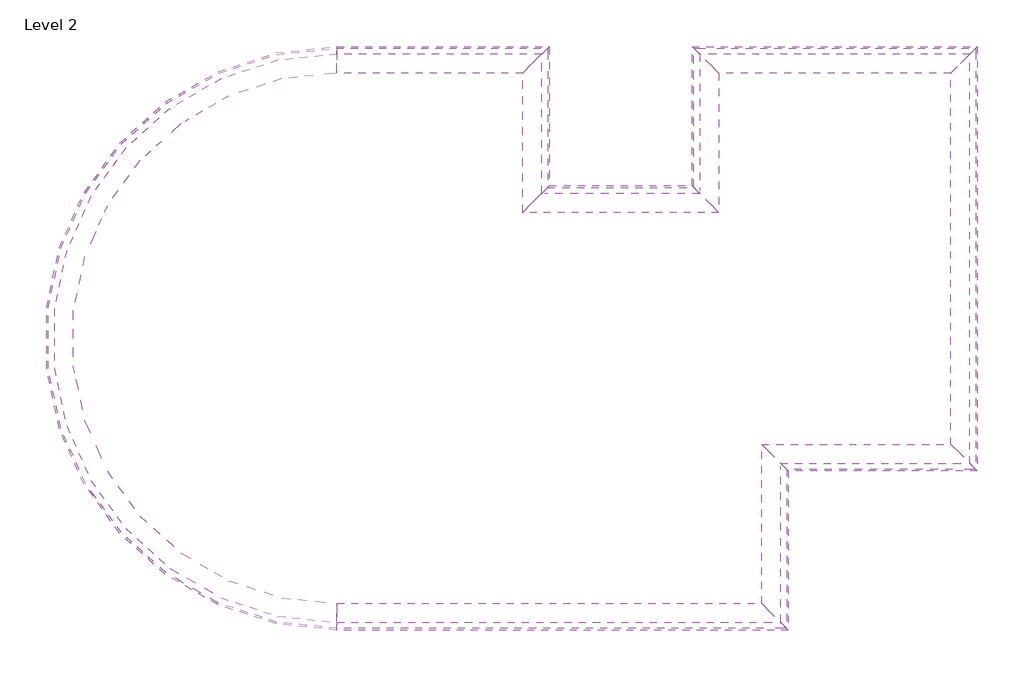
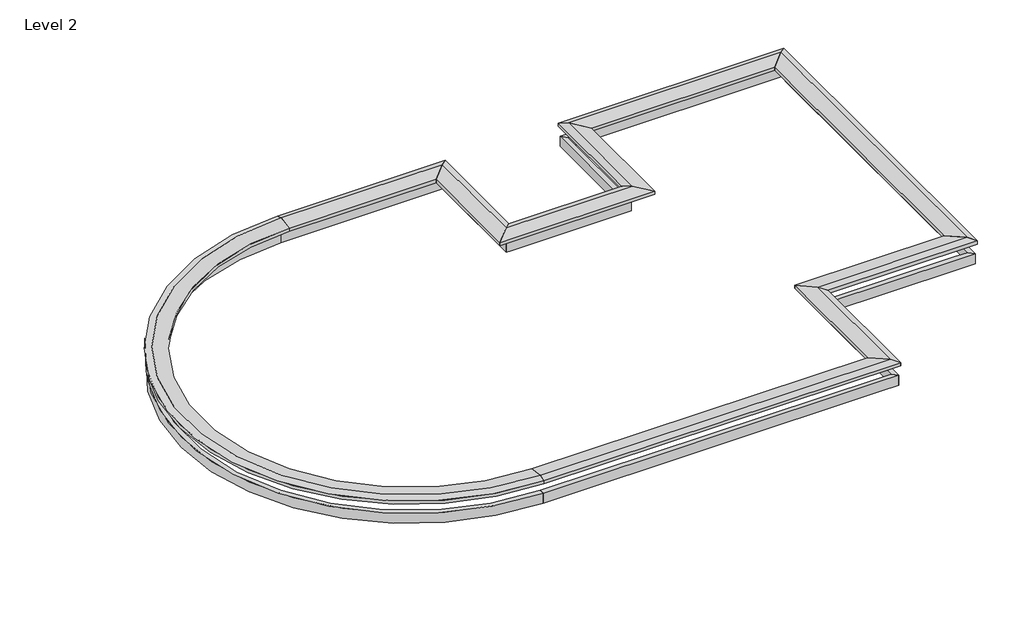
# One storey: 20 proxies.
"""IFC4 building model written with IfcOpenShell, lengths in millimetres."""

from ifc_helpers import new_model, si_unit, point, frame, frame_2d, origin, place, context, project, spatial, polyline, circle_curve, trimmed, segment, composite_curve, outline, extrude, faceted_brep, element, save
from ifc_brep_helpers import plane_surface, cylinder_surface, revolved_surface, advanced_brep

model = new_model("IFC4")

# Units and contexts
model_context = context("Model", 3, world=origin())
ifc_project = project(units=[si_unit("LENGTHUNIT", "METRE", prefix="MILLI")], contexts=[model_context])

# Site, building, storey
site = spatial("IfcSite", under=ifc_project)
building = spatial("IfcBuilding", under=site)
storey = spatial("IfcBuildingStorey", under=building, Name="Level 2", Elevation=3048.0)

# Proxies
placement = place(None, origin())
element("IfcBuildingElementProxy", 1, Name="Wall Sweeps", at=placement, inside=storey, context=model_context, shape_type="SweptSolid", body=[
    extrude(outline(polyline([(-15653.4094576, 12053.1951144), (-15653.4094576, 12145.2701144), (-12429.1969576, 12145.2701144), (-12521.2719576, 12053.1951144), (-15653.4094576, 12053.1951144)])), frame((0.0, 0.0, 5689.6), z_axis=(0.0, 0.0, 1.0), x_axis=(1.0, 0.0, 0.0)), (0.0, 0.0, 1.0), 203.2),
])
element("IfcBuildingElementProxy", 2, Name="Wall Sweeps", at=placement, inside=storey, context=model_context, shape_type="Brep", body=[
    faceted_brep([(-15653.4094576, 11764.2701144, 6159.5), (-15653.4094576, 12043.6701144, 6197.6), (-15653.4094576, 12170.6701144, 6159.5), (-15653.4094576, 12170.6701144, 6096.0), (-15653.4094576, 12145.2701144, 6096.0), (-15653.4094576, 11792.8451144, 6096.0), (-15653.4094576, 11764.2701144, 6096.0), (-12810.1969576, 11764.2701144, 6159.5), (-12810.1969576, 11764.2701144, 6096.0), (-12403.7969576, 12170.6701144, 6096.0), (-12403.7969576, 12170.6701144, 6159.5), (-12530.7969576, 12043.6701144, 6197.6)], [[[0, 1, 2, 3, 4, 5, 6]], [[7, 8, 9, 10, 11]], [[1, 0, 7, 11]], [[2, 1, 11, 10]], [[3, 2, 10, 9]], [[6, 5, 4, 3, 9, 8]], [[0, 6, 8, 7]]]),
])
element("IfcBuildingElementProxy", 3, Name="Wall Sweeps", at=placement, inside=storey, context=model_context, shape_type="Brep", body=[
    faceted_brep([(-12429.1969576, 12145.2701144, 5892.8), (-12429.1969576, 12145.2701144, 5689.6), (-12521.2719576, 12053.1951144, 5689.6), (-12521.2719576, 12053.1951144, 5892.8), (-12429.1969576, 10011.6701144, 5892.8), (-12521.2719576, 9919.5951144, 5892.8), (-12521.2719576, 9919.5951144, 5689.6), (-12429.1969576, 10011.6701144, 5689.6), (-12429.1969576, 11792.8451144, 5892.8), (-12429.1969576, 11792.8451144, 5689.6), (-12521.2719576, 11792.8451144, 5689.6), (-12521.2719576, 11792.8451144, 5892.8)], [[[0, 1, 2, 3]], [[4, 5, 6, 7]], [[1, 0, 8, 4, 7, 9]], [[2, 1, 9, 7, 6, 10]], [[3, 2, 10, 6, 5, 11]], [[0, 3, 11, 5, 4, 8]]]),
])
element("IfcBuildingElementProxy", 4, Name="Wall Sweeps", at=placement, inside=storey, context=model_context, shape_type="Brep", body=[
    faceted_brep([(-12810.1969576, 11764.2701144, 6159.5), (-12530.7969576, 12043.6701144, 6197.6), (-12403.7969576, 12170.6701144, 6159.5), (-12403.7969576, 12170.6701144, 6096.0), (-12810.1969576, 11764.2701144, 6096.0), (-12810.1969576, 9630.6701144, 6159.5), (-12810.1969576, 9630.6701144, 6096.0), (-12403.7969576, 10037.0701144, 6096.0), (-12403.7969576, 10037.0701144, 6159.5), (-12530.7969576, 9910.0701144, 6197.6)], [[[0, 1, 2, 3, 4]], [[5, 6, 7, 8, 9]], [[1, 0, 5, 9]], [[2, 1, 9, 8]], [[3, 2, 8, 7]], [[4, 3, 7, 6]], [[0, 4, 6, 5]]]),
])
element("IfcBuildingElementProxy", 5, Name="Wall Sweeps", at=placement, inside=storey, context=model_context, shape_type="Brep", body=[
    faceted_brep([(-12429.1969576, 10011.6701144, 5892.8), (-12429.1969576, 10011.6701144, 5689.6), (-12521.2719576, 9919.5951144, 5689.6), (-12521.2719576, 9919.5951144, 5892.8), (-10190.8219576, 10011.6701144, 5892.8), (-10098.7469576, 9919.5951144, 5892.8), (-10098.7469576, 9919.5951144, 5689.6), (-10190.8219576, 10011.6701144, 5689.6), (-12429.1969576, 9919.5951144, 5689.6), (-12429.1969576, 9919.5951144, 5892.8)], [[[0, 1, 2, 3]], [[4, 5, 6, 7]], [[1, 0, 4, 7]], [[2, 1, 7, 6, 8]], [[3, 2, 8, 6, 5, 9]], [[0, 3, 9, 5, 4]]]),
])
element("IfcBuildingElementProxy", 6, Name="Wall Sweeps", at=placement, inside=storey, context=model_context, shape_type="Brep", body=[
    faceted_brep([(-12810.1969576, 9630.6701144, 6159.5), (-12530.7969576, 9910.0701144, 6197.6), (-12403.7969576, 10037.0701144, 6159.5), (-12403.7969576, 10037.0701144, 6096.0), (-12810.1969576, 9630.6701144, 6096.0), (-9809.8219576, 9630.6701144, 6159.5), (-9809.8219576, 9630.6701144, 6096.0), (-10216.2219576, 10037.0701144, 6096.0), (-10216.2219576, 10037.0701144, 6159.5), (-10089.2219576, 9910.0701144, 6197.6)], [[[0, 1, 2, 3, 4]], [[5, 6, 7, 8, 9]], [[1, 0, 5, 9]], [[2, 1, 9, 8]], [[3, 2, 8, 7]], [[4, 3, 7, 6]], [[0, 4, 6, 5]]]),
])
element("IfcBuildingElementProxy", 7, Name="Wall Sweeps", at=placement, inside=storey, context=model_context, shape_type="Brep", body=[
    faceted_brep([(-10190.8219576, 10011.6701144, 5892.8), (-10190.8219576, 10011.6701144, 5689.6), (-10098.7469576, 9919.5951144, 5689.6), (-10098.7469576, 9919.5951144, 5892.8), (-10190.8219576, 12145.2701144, 5892.8), (-10098.7469576, 12053.1951144, 5892.8), (-10098.7469576, 12053.1951144, 5689.6), (-10190.8219576, 12145.2701144, 5689.6), (-10098.7469576, 10011.6701144, 5689.6), (-10098.7469576, 10011.6701144, 5892.8)], [[[0, 1, 2, 3]], [[4, 5, 6, 7]], [[1, 0, 4, 7]], [[2, 1, 7, 6, 8]], [[3, 2, 8, 6, 5, 9]], [[0, 3, 9, 5, 4]]]),
])
element("IfcBuildingElementProxy", 8, Name="Wall Sweeps", at=placement, inside=storey, context=model_context, shape_type="Brep", body=[
    faceted_brep([(-9809.8219576, 9630.6701144, 6159.5), (-10089.2219576, 9910.0701144, 6197.6), (-10216.2219576, 10037.0701144, 6159.5), (-10216.2219576, 10037.0701144, 6096.0), (-9809.8219576, 9630.6701144, 6096.0), (-9809.8219576, 11764.2701144, 6159.5), (-9809.8219576, 11764.2701144, 6096.0), (-10216.2219576, 12170.6701144, 6096.0), (-10216.2219576, 12170.6701144, 6159.5), (-10089.2219576, 12043.6701144, 6197.6)], [[[0, 1, 2, 3, 4]], [[5, 6, 7, 8, 9]], [[1, 0, 5, 9]], [[2, 1, 9, 8]], [[3, 2, 8, 7]], [[4, 3, 7, 6]], [[0, 4, 6, 5]]]),
])
element("IfcBuildingElementProxy", 9, Name="Wall Sweeps", at=placement, inside=storey, context=model_context, shape_type="Brep", body=[
    faceted_brep([(-10190.8219576, 12145.2701144, 5892.8), (-10190.8219576, 12145.2701144, 5689.6), (-10098.7469576, 12053.1951144, 5689.6), (-10098.7469576, 12053.1951144, 5892.8), (-5875.9969576, 12145.2701144, 5892.8), (-5968.0719576, 12053.1951144, 5892.8), (-5968.0719576, 12053.1951144, 5689.6), (-5875.9969576, 12145.2701144, 5689.6), (-9838.3969576, 12145.2701144, 5892.8), (-9838.3969576, 12145.2701144, 5689.6), (-9838.3969576, 12053.1951144, 5689.6), (-9838.3969576, 12053.1951144, 5892.8)], [[[0, 1, 2, 3]], [[4, 5, 6, 7]], [[1, 0, 8, 4, 7, 9]], [[2, 1, 9, 7, 6, 10]], [[3, 2, 10, 6, 5, 11]], [[0, 3, 11, 5, 4, 8]]]),
])
element("IfcBuildingElementProxy", 10, Name="Wall Sweeps", at=placement, inside=storey, context=model_context, shape_type="Brep", body=[
    faceted_brep([(-9809.8219576, 11764.2701144, 6159.5), (-10089.2219576, 12043.6701144, 6197.6), (-10216.2219576, 12170.6701144, 6159.5), (-10216.2219576, 12170.6701144, 6096.0), (-9809.8219576, 11764.2701144, 6096.0), (-6256.9969576, 11764.2701144, 6159.5), (-6256.9969576, 11764.2701144, 6096.0), (-5850.5969576, 12170.6701144, 6096.0), (-5850.5969576, 12170.6701144, 6159.5), (-5977.5969576, 12043.6701144, 6197.6)], [[[0, 1, 2, 3, 4]], [[5, 6, 7, 8, 9]], [[1, 0, 5, 9]], [[2, 1, 9, 8]], [[3, 2, 8, 7]], [[4, 3, 7, 6]], [[0, 4, 6, 5]]]),
])
element("IfcBuildingElementProxy", 11, Name="Wall Sweeps", at=placement, inside=storey, context=model_context, shape_type="Brep", body=[
    faceted_brep([(-5875.9969576, 12145.2701144, 5892.8), (-5875.9969576, 12145.2701144, 5689.6), (-5968.0719576, 12053.1951144, 5689.6), (-5968.0719576, 12053.1951144, 5892.8), (-5875.9969576, 5696.8451144, 5892.8), (-5968.0719576, 5788.9201144, 5892.8), (-5968.0719576, 5788.9201144, 5689.6), (-5875.9969576, 5696.8451144, 5689.6), (-5875.9969576, 11792.8451144, 5892.8), (-5875.9969576, 11792.8451144, 5689.6), (-5968.0719576, 11792.8451144, 5689.6), (-5968.0719576, 11792.8451144, 5892.8)], [[[0, 1, 2, 3]], [[4, 5, 6, 7]], [[1, 0, 8, 4, 7, 9]], [[2, 1, 9, 7, 6, 10]], [[3, 2, 10, 6, 5, 11]], [[0, 3, 11, 5, 4, 8]]]),
])
element("IfcBuildingElementProxy", 12, Name="Wall Sweeps", at=placement, inside=storey, context=model_context, shape_type="Brep", body=[
    faceted_brep([(-6256.9969576, 11764.2701144, 6159.5), (-5977.5969576, 12043.6701144, 6197.6), (-5850.5969576, 12170.6701144, 6159.5), (-5850.5969576, 12170.6701144, 6096.0), (-6256.9969576, 11764.2701144, 6096.0), (-6256.9969576, 6077.8451144, 6159.5), (-6256.9969576, 6077.8451144, 6096.0), (-5850.5969576, 5671.4451144, 6096.0), (-5850.5969576, 5671.4451144, 6159.5), (-5977.5969576, 5798.4451144, 6197.6)], [[[0, 1, 2, 3, 4]], [[5, 6, 7, 8, 9]], [[1, 0, 5, 9]], [[2, 1, 9, 8]], [[3, 2, 8, 7]], [[4, 3, 7, 6]], [[0, 4, 6, 5]]]),
])
element("IfcBuildingElementProxy", 13, Name="Wall Sweeps", at=placement, inside=storey, context=model_context, shape_type="Brep", body=[
    faceted_brep([(-5875.9969576, 5696.8451144, 5892.8), (-5875.9969576, 5696.8451144, 5689.6), (-5968.0719576, 5788.9201144, 5689.6), (-5968.0719576, 5788.9201144, 5892.8), (-8771.5969576, 5696.8451144, 5892.8), (-8863.6719576, 5788.9201144, 5892.8), (-8863.6719576, 5788.9201144, 5689.6), (-8771.5969576, 5696.8451144, 5689.6), (-6228.4219576, 5696.8451144, 5892.8), (-6228.4219576, 5696.8451144, 5689.6), (-6228.4219576, 5788.9201144, 5689.6), (-6228.4219576, 5788.9201144, 5892.8)], [[[0, 1, 2, 3]], [[4, 5, 6, 7]], [[1, 0, 8, 4, 7, 9]], [[2, 1, 9, 7, 6, 10]], [[3, 2, 10, 6, 5, 11]], [[0, 3, 11, 5, 4, 8]]]),
])
element("IfcBuildingElementProxy", 14, Name="Wall Sweeps", at=placement, inside=storey, context=model_context, shape_type="Brep", body=[
    faceted_brep([(-6256.9969576, 6077.8451144, 6159.5), (-5977.5969576, 5798.4451144, 6197.6), (-5850.5969576, 5671.4451144, 6159.5), (-5850.5969576, 5671.4451144, 6096.0), (-6256.9969576, 6077.8451144, 6096.0), (-9152.5969576, 6077.8451144, 6159.5), (-9152.5969576, 6077.8451144, 6096.0), (-8746.1969576, 5671.4451144, 6096.0), (-8746.1969576, 5671.4451144, 6159.5), (-8873.1969576, 5798.4451144, 6197.6)], [[[0, 1, 2, 3, 4]], [[5, 6, 7, 8, 9]], [[1, 0, 5, 9]], [[2, 1, 9, 8]], [[3, 2, 8, 7]], [[4, 3, 7, 6]], [[0, 4, 6, 5]]]),
])
element("IfcBuildingElementProxy", 15, Name="Wall Sweeps", at=placement, inside=storey, context=model_context, shape_type="Brep", body=[
    faceted_brep([(-8771.5969576, 5696.8451144, 5892.8), (-8771.5969576, 5696.8451144, 5689.6), (-8863.6719576, 5788.9201144, 5689.6), (-8863.6719576, 5788.9201144, 5892.8), (-8771.5969576, 3258.4451144, 5892.8), (-8863.6719576, 3350.5201144, 5892.8), (-8863.6719576, 3350.5201144, 5689.6), (-8771.5969576, 3258.4451144, 5689.6), (-8863.6719576, 5696.8451144, 5689.6), (-8863.6719576, 5696.8451144, 5892.8)], [[[0, 1, 2, 3]], [[4, 5, 6, 7]], [[1, 0, 4, 7]], [[2, 1, 7, 6, 8]], [[3, 2, 8, 6, 5, 9]], [[0, 3, 9, 5, 4]]]),
])
element("IfcBuildingElementProxy", 16, Name="Wall Sweeps", at=placement, inside=storey, context=model_context, shape_type="Brep", body=[
    faceted_brep([(-9152.5969576, 6077.8451144, 6159.5), (-8873.1969576, 5798.4451144, 6197.6), (-8746.1969576, 5671.4451144, 6159.5), (-8746.1969576, 5671.4451144, 6096.0), (-9152.5969576, 6077.8451144, 6096.0), (-9152.5969576, 3639.4451144, 6159.5), (-9152.5969576, 3639.4451144, 6096.0), (-8746.1969576, 3233.0451144, 6096.0), (-8746.1969576, 3233.0451144, 6159.5), (-8873.1969576, 3360.0451144, 6197.6)], [[[0, 1, 2, 3, 4]], [[5, 6, 7, 8, 9]], [[1, 0, 5, 9]], [[2, 1, 9, 8]], [[3, 2, 8, 7]], [[4, 3, 7, 6]], [[0, 4, 6, 5]]]),
])
element("IfcBuildingElementProxy", 17, Name="Wall Sweeps", at=placement, inside=storey, context=model_context, shape_type="Brep", body=[
    faceted_brep([(-8771.5969576, 3258.4451144, 5892.8), (-8771.5969576, 3258.4451144, 5689.6), (-8863.6719576, 3350.5201144, 5689.6), (-8863.6719576, 3350.5201144, 5892.8), (-15653.4094576, 3258.4451144, 5892.8), (-15653.4094576, 3350.5201144, 5892.8), (-15653.4094576, 3350.5201144, 5689.6), (-15653.4094576, 3258.4451144, 5689.6), (-9124.0219576, 3258.4451144, 5892.8), (-9124.0219576, 3258.4451144, 5689.6), (-9124.0219576, 3350.5201144, 5689.6), (-9124.0219576, 3350.5201144, 5892.8)], [[[0, 1, 2, 3]], [[4, 5, 6, 7]], [[1, 0, 8, 4, 7, 9]], [[2, 1, 9, 7, 6, 10]], [[3, 2, 10, 6, 5, 11]], [[0, 3, 11, 5, 4, 8]]]),
])
element("IfcBuildingElementProxy", 18, Name="Wall Sweeps", at=placement, inside=storey, context=model_context, shape_type="Brep", body=[
    faceted_brep([(-9152.5969576, 3639.4451144, 6159.5), (-8873.1969576, 3360.0451144, 6197.6), (-8746.1969576, 3233.0451144, 6159.5), (-8746.1969576, 3233.0451144, 6096.0), (-9152.5969576, 3639.4451144, 6096.0), (-15653.4094576, 3639.4451144, 6159.5), (-15653.4094576, 3639.4451144, 6096.0), (-15653.4094576, 3610.8701144, 6096.0), (-15653.4094576, 3258.4451144, 6096.0), (-15653.4094576, 3233.0451144, 6096.0), (-15653.4094576, 3233.0451144, 6159.5), (-15653.4094576, 3360.0451144, 6197.6)], [[[0, 1, 2, 3, 4]], [[5, 6, 7, 8, 9, 10, 11]], [[1, 0, 5, 11]], [[2, 1, 11, 10]], [[3, 2, 10, 9]], [[4, 3, 9, 8, 7, 6]], [[0, 4, 6, 5]]]),
])
element("IfcBuildingElementProxy", 19, Name="Wall Sweeps", at=placement, inside=storey, context=model_context, shape_type="SweptSolid", body=[
    extrude(outline(composite_curve([segment(trimmed(circle_curve(frame_2d((-15653.4094576, 7701.8576144)), 4351.3375), [point((-15653.4094576, 12053.1951144))], [point((-15653.4094576, 3350.5201144))], True, "CARTESIAN"), True, "CONTINUOUS"), segment(polyline([(-15653.4094576, 3350.5201144), (-15653.4094576, 3258.4451144)]), True, "CONTINUOUS"), segment(trimmed(circle_curve(frame_2d((-15653.4094576, 7701.8576144)), 4443.4125), [point((-15653.4094576, 3258.4451144))], [point((-15653.4094576, 12145.2701144))], False, "CARTESIAN"), True, "CONTINUOUS"), segment(polyline([(-15653.4094576, 12145.2701144), (-15653.4094576, 12053.1951144)]), True, "CONTINUOUS")], self_intersect=False)), frame((0.0, 0.0, 5689.6), z_axis=(0.0, 0.0, 1.0), x_axis=(1.0, 0.0, 0.0)), (0.0, 0.0, 1.0), 203.2),
])
element("IfcBuildingElementProxy", 20, Name="Wall Sweeps", at=placement, inside=storey, context=model_context, shape_type="AdvancedBrep", body=[
    advanced_brep(
    [(-15653.4094576, 12043.6701144, 6197.6), (-15653.4094576, 3360.0451144, 6197.6), (-15653.4094576, 3639.4451144, 6159.5), (-15653.4094576, 11764.2701144, 6159.5), (-15653.4094576, 12170.6701144, 6159.5), (-15653.4094576, 3233.0451144, 6159.5), (-15653.4094576, 12170.6701144, 6096.0), (-15653.4094576, 3233.0451144, 6096.0), (-15653.4094576, 11764.2701144, 6096.0), (-15653.4094576, 3639.4451144, 6096.0), (-15653.4094576, 3610.8701144, 6096.0), (-15653.4094576, 3258.4451144, 6096.0), (-15653.4094576, 12145.2701144, 6096.0), (-15653.4094576, 11792.8451144, 6096.0)],
    [
        (0, 1, circle_curve(frame((-15653.4094576, 7701.8576144, 6197.6), z_axis=(0.0, 0.0, 1.0), x_axis=(0.0, -1.0, 0.0)), 4341.8125)),
        (1, 2),
        (2, 3, circle_curve(frame((-15653.4094576, 7701.8576144, 6159.5), z_axis=(0.0, 0.0, -1.0), x_axis=(0.0, -1.0, 0.0)), 4062.4125)),
        (3, 0),
        (4, 5, circle_curve(frame((-15653.4094576, 7701.8576144, 6159.5), z_axis=(0.0, 0.0, 1.0), x_axis=(0.0, -1.0, 0.0)), 4468.8125)),
        (5, 1),
        (0, 4),
        (6, 7, circle_curve(frame((-15653.4094576, 7701.8576144, 6096.0), z_axis=(0.0, 0.0, 1.0), x_axis=(0.0, -1.0, 0.0)), 4468.8125)),
        (7, 5),
        (4, 6),
        (8, 9, circle_curve(frame((-15653.4094576, 7701.8576144, 6096.0), z_axis=(0.0, 0.0, 1.0), x_axis=(0.0, -1.0, 0.0)), 4062.4125)),
        (9, 10),
        (10, 11),
        (11, 7),
        (6, 12),
        (12, 13),
        (13, 8),
        (2, 9),
        (8, 3),
    ],
    [
        revolved_surface(polyline([(-15653.4094576, 3639.4451144, 6159.5), (-15653.4094576, 3360.0451144, 6197.6)]), (-15653.4094576, 7701.8576144, 6096.0), (0.0, 0.0, -1.0)),
        revolved_surface(polyline([(-15653.4094576, 3360.0451144, 6197.6), (-15653.4094576, 3233.0451144, 6159.5)]), (-15653.4094576, 7701.8576144, 6096.0), (0.0, 0.0, -1.0)),
        cylinder_surface(frame((-15653.4094576, 7701.8576144, 6096.0), z_axis=(0.0, 0.0, -1.0), x_axis=(0.0, -1.0, 0.0)), 4468.8125),
        plane_surface(frame((-15653.4094576, 7701.8576144, 6096.0), z_axis=(0.0, 0.0, -1.0), x_axis=(0.0, -1.0, 0.0))),
        revolved_surface(polyline([(-15653.4094576, 3639.4451144, 6096.0), (-15653.4094576, 3639.4451144, 6159.5)]), (-15653.4094576, 7701.8576144, 6096.0), (0.0, 0.0, -1.0)),
        plane_surface(frame((-15653.4094576, 2953.6451144, 6096.0), z_axis=(1.0, 0.0, 0.0), x_axis=(0.0, 0.0, 1.0))),
        plane_surface(frame((-15653.4094576, 12450.0701144, 6096.0), z_axis=(1.0, 0.0, 0.0), x_axis=(0.0, 0.0, 1.0))),
    ],
    [
        (0, [[1, 2, 3, 4]]),
        (1, [[5, 6, -1, 7]]),
        (2, [[8, 9, -5, 10]]),
        (3, [[11, 12, 13, 14, -8, 15, 16, 17]]),
        (4, [[-3, 18, -11, 19]]),
        (5, [[-2, -6, -9, -14, -13, -12, -18]]),
        (6, [[-19, -17, -16, -15, -10, -7, -4]]),
    ],
),
])

save(model, "model.ifc")
